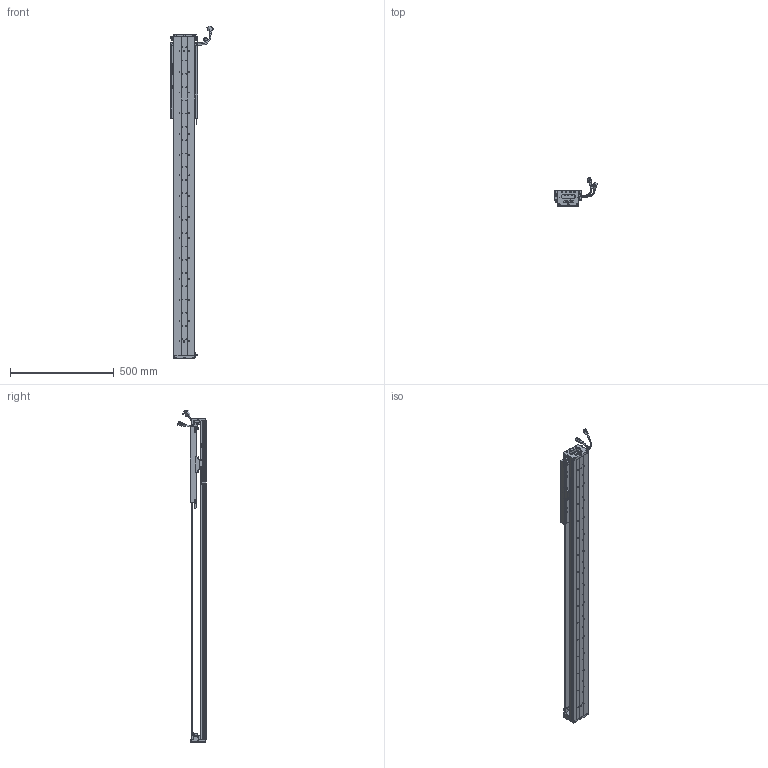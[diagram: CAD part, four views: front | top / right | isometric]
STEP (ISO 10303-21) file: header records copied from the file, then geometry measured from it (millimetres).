
FILE_DESCRIPTION (( 'STEP AP203' ), '1' );
FILE_NAME ('Z5-RY100D-1-L500-B-K.SLDASM_1100.step', '2021-05-17T03:33:07', ( '盈信电脑' ), ( '东莞市道滘镇水果街19号' ), 'SwSTEP 2.0', 'SolidWorks 2016', '' );
FILE_SCHEMA (( 'CONFIG_CONTROL_DESIGN' ));
Length unit declared in the file: millimetre
Products named in the file (36): SEAL; 100-Z-臏賑輸盄裔(21遴); HARNESS-Part-1; SEAL-Part-1; SCREW-M1.7-1; HOLDER0; HARNESS; SCALE; 080黍杅芛假蚾釱21遴; 140雄赽晤鎢ん堤盄; SCALE-Part-1; Z-RY100D詩湍奻揤裔; 榋妏寠巭燃_暯_M2_2; LABEL; SCREW-M1.7; Z-RY100D覜茼んえ; PSLH080_PSLF2; 140蚥薯蝶輸; PBU_SHEET; Z5-RY100-L500詩湍90mm遵_1100; Z-RY100D詩湍狟揤裔; Z5-RY100铝滑块（21款）; SCALE-Part-2; Z5-RY100D-500-倰第菁釱_1100; SCREW-M1.6-2; Z5-RY100D-1-L500-B-K.SLDASM_1100; HARNESS-Part-2; COVER-Part-1; SCREW-M1.6-3; SCREW-M1.6-1; SCREW-M1.6; LABEL-Part-1; COVER; SHIELDPLATE; Z-100詩湍傷裔啣; 覜茼ん672
Assembly tree (43 placements, depth 4):
  Z5-RY100D-1-L500-B-K.SLDASM_1100
    Z5-RY100D-500-倰第菁釱_1100
    Z5-RY100铝滑块（21款）
    PSLH080_PSLF2
      SCALE
        SCALE-Part-1
        SCALE-Part-2
      HARNESS
        HARNESS-Part-1
        HARNESS-Part-2
      LABEL
        LABEL-Part-1
      COVER
        COVER-Part-1
      SEAL
        SEAL-Part-1
      榋妏寠巭燃_暯_M2_2
      SHIELDPLATE
      SCREW-M1.7
      SCREW-M1.7-1
      PBU_SHEET
      SCREW-M1.6
      SCREW-M1.6-1
      SCREW-M1.6-2
      SCREW-M1.6-3
      HOLDER0
    080黍杅芛假蚾釱21遴
    Z-100詩湍傷裔啣  x2
    140蚥薯蝶輸  x2
    覜茼ん672  x3
    Z-RY100D覜茼んえ  x3
    100-Z-臏賑輸盄裔(21遴)
    140雄赽晤鎢ん堤盄
    Z5-RY100-L500詩湍90mm遵_1100
    Z-RY100D詩湍狟揤裔  x2
    Z-RY100D詩湍奻揤裔  x2
Bounding box: 205.83 x 136.11 x 1600.43 mm (x, y, z)
Volume: 3389504.1 mm3; surface area: 1278066.3 mm2
Topology: 38 solids, 38 shells, 2719 faces, 7225 edges, 4584 vertices
Faces by surface type: cylinder 1230, plane 1141, cone 226, torus 69, bspline 53
Entity records: 75455 total; most frequent: CARTESIAN_POINT 15855, DIRECTION 12031, ORIENTED_EDGE 11330, EDGE_CURVE 5665, AXIS2_PLACEMENT_3D 4460, VERTEX_POINT 3652, VECTOR 3111, LINE 3111
